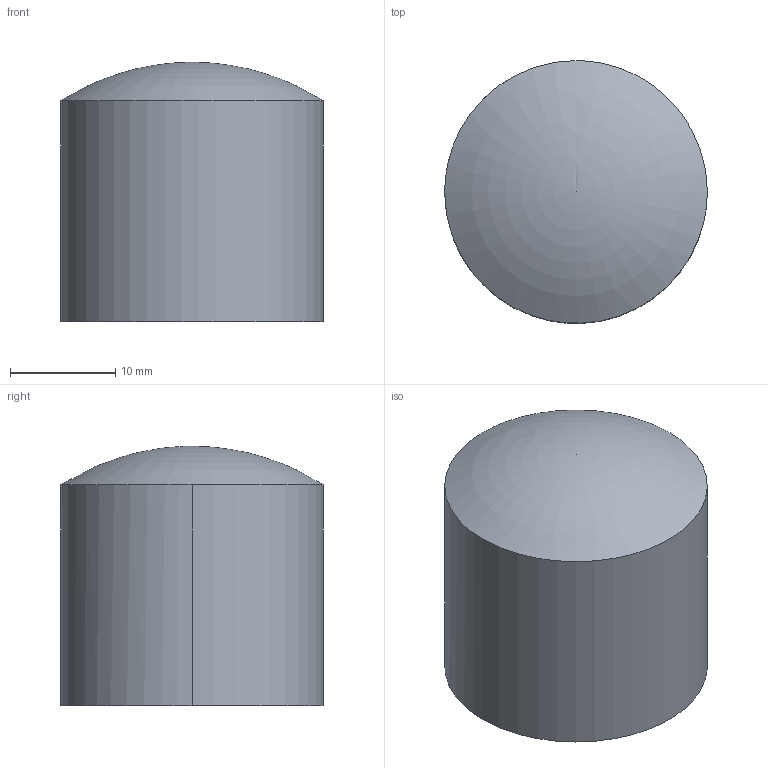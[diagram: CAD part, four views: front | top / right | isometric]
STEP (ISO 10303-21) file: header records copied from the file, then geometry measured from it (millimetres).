
FILE_DESCRIPTION ((), '1');
FILE_NAME ('\\fileserver\Daten\Applikationen\Optikdesign\SPA-Design\aktuelle SPA-Designs\Linsenkataloge - 2016-Juni\Zemax\BAM\BAM25-150-D-B-632.STP', '2016-05-24T14:23:25', ('Unknown'), ('Unknown'), 'HarmonyWare STEP v2.0.1', 'HarmonyWare Translators', '');
FILE_SCHEMA (('CONFIG_CONTROL_DESIGN'));
Length unit declared in the file: millimetre
Products named in the file (1): NONE
Bounding box: 25 x 24.98 x 24.69 mm (x, y, z)
Volume: 10986.4 mm3; surface area: 2693.8 mm2
Topology: 1 solids, 1 shells, 5 faces, 11 edges, 8 vertices
Faces by surface type: cylinder 2, bspline 1, plane 1, sphere 1
Entity records: 351 total; most frequent: CARTESIAN_POINT 181, ORIENTED_EDGE 20, EDGE_CURVE 10, VERTEX_POINT 8, DIRECTION 8, PERSON 8, ORGANIZATION 8, PERSON_AND_ORGANIZATION 8
